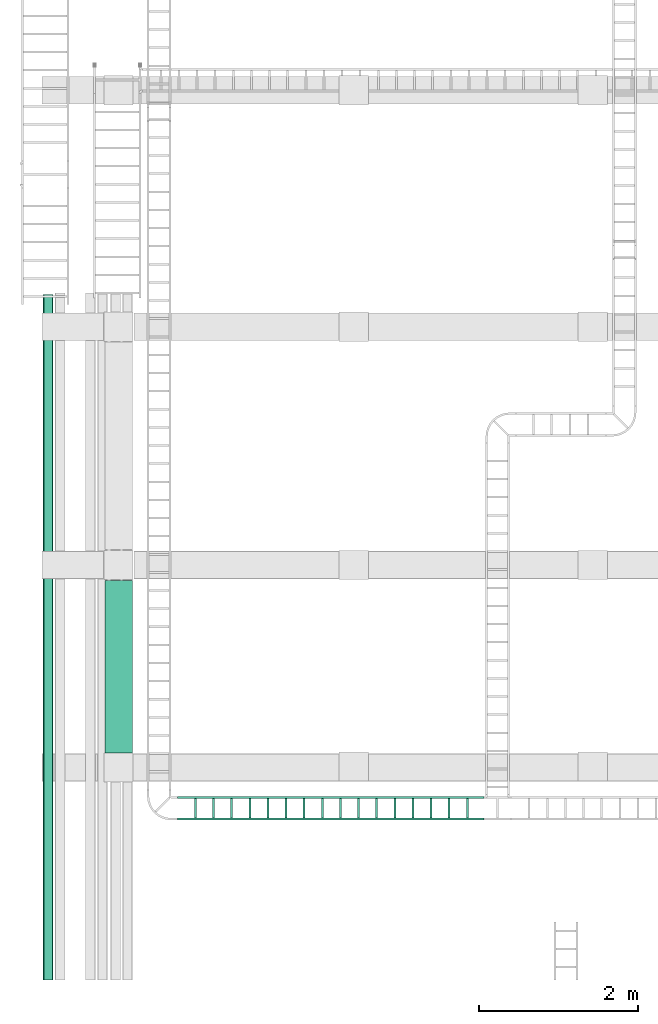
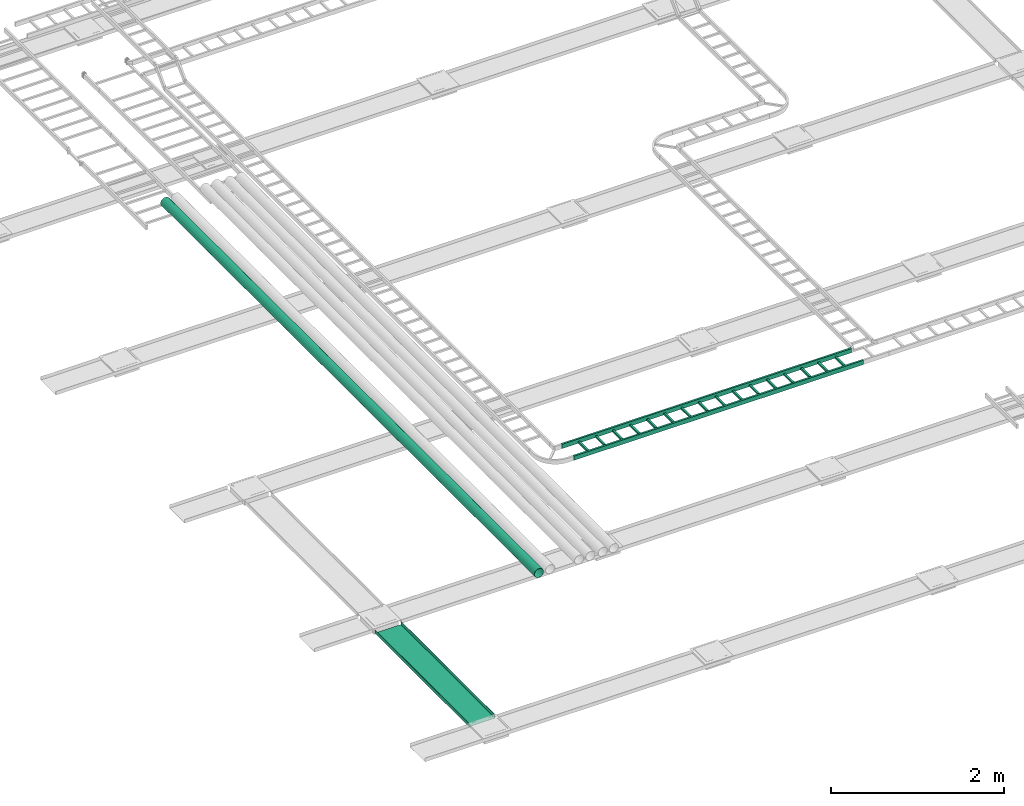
# One storey, part 3 of 16: 3 flow segments.
"""IFC2X3 building model written with IfcOpenShell, lengths in millimetres."""

from ifc_helpers import new_model, entity, si_unit, converted_unit, derived_unit, direction, frame, origin_with_axes, place, context, subcontext, project, spatial, open_shell, faceted_brep, surface_model, source, transform, mapped, type_object, element, save


model = new_model("IFC2X3")

# Units and contexts
model_context = context("Model", 3, precision=0.01, world=frame((0.0, 4.29681676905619e-09, 0.0)), true_north=direction((4.01073788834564e-13, 1.0)))
plan_context = context("Plan", 3, precision=0.01, world=frame((0.0, 4.29681676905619e-09, 0.0)), true_north=direction((4.01073788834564e-13, 1.0)))
body_context = subcontext(model_context, "Body", "Model", "MODEL_VIEW")
ifc_project = project(units=[converted_unit("PLANEANGLEUNIT", "DEGREE", entity("IfcPositiveLengthMeasure", 0.0174532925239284), si_unit("PLANEANGLEUNIT", "RADIAN"), dimensions=[0, 0, 0, 0, 0, 0, 0]), si_unit("AREAUNIT", "SQUARE_METRE"), si_unit("LENGTHUNIT", "METRE", prefix="MILLI"), si_unit("MASSUNIT", "GRAM", prefix="KILO"), si_unit("POWERUNIT", "WATT"), si_unit("PRESSUREUNIT", "PASCAL"), si_unit("FORCEUNIT", "NEWTON", prefix="KILO"), si_unit("ELECTRICVOLTAGEUNIT", "VOLT"), si_unit("ELECTRICCURRENTUNIT", "AMPERE"), si_unit("THERMODYNAMICTEMPERATUREUNIT", "DEGREE_CELSIUS"), si_unit("TIMEUNIT", "SECOND"), si_unit("VOLUMEUNIT", "CUBIC_METRE"), derived_unit("LINEARVELOCITYUNIT", [(si_unit("LENGTHUNIT", "METRE"), 1), (si_unit("TIMEUNIT", "SECOND"), -1)]), derived_unit("VOLUMETRICFLOWRATEUNIT", [(si_unit("VOLUMEUNIT", "CUBIC_METRE"), 1), (si_unit("TIMEUNIT", "SECOND"), -1)]), derived_unit("THERMALTRANSMITTANCEUNIT", [(si_unit("POWERUNIT", "WATT"), 1), (si_unit("THERMODYNAMICTEMPERATUREUNIT", "KELVIN"), -1), (si_unit("AREAUNIT", "SQUARE_METRE"), -1)]), derived_unit("SOUNDPRESSUREUNIT", [(si_unit("PRESSUREUNIT", "PASCAL"), 1)])], contexts=[model_context, plan_context])

# Site, building, storey
site_placement = place(None, frame((0.0, -4.29681676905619e-09, 0.0), z_axis=(0.0, 0.0, 1.0), x_axis=(1.0, 0.0, 0.0)))
site = spatial("IfcSite", under=ifc_project, at=site_placement, Name="ENGM", CompositionType="ELEMENT")
building_placement = place(site_placement, frame((0.0, 4.29681676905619e-09, 0.0), z_axis=(0.0, 0.0, 1.0), x_axis=(1.0, 0.0, 0.0)))
building = spatial("IfcBuilding", under=site, at=building_placement, Name="TS", CompositionType="ELEMENT")
storey_placement = place(building_placement, frame((0.0, 0.0, 210900.0), z_axis=(0.0, 0.0, 1.0), x_axis=(1.0, 0.0, 0.0)))
storey = spatial("IfcBuildingStorey", under=building, at=storey_placement, Name="Nivå F", CompositionType="ELEMENT", Elevation=210900.0)

# Flow segments
cable_carrier_segment_type_1 = type_object("IfcCableCarrierSegmentType", Name="Kabelbane", PredefinedType="CABLETRAYSEGMENT")
shared_shape_1 = source(origin_with_axes(), body_context, "Body", "SurfaceModel", [
    surface_model("IfcShellBasedSurfaceModel", [(0.0, -175.0, 25.0), (0.0, -172.46, -22.46), (0.0, -175.0, -25.0), (0.0, 175.0, -25.0), (0.0, -172.46, 25.0), (0.0, 175.0, 25.0), (0.0, 172.46, -22.46), (0.0, 172.46, 25.0), (2179.54167, -172.46, 25.0), (2179.54167, -175.0, 25.0), (2179.54167, -172.46, -22.46), (2179.54167, 175.0, 25.0), (2179.54167, 172.46, 25.0), (2179.54167, 172.46, -22.46), (2179.54167, -175.0, -25.0), (2179.54167, 175.0, -25.0)], [open_shell([[[0, 1, 2]], [[3, 2, 1]], [[1, 0, 4]], [[5, 3, 6]], [[1, 6, 3]], [[6, 7, 5]], [[8, 9, 10]], [[11, 12, 13]], [[10, 14, 15]], [[14, 10, 9]], [[13, 15, 11]], [[15, 13, 10]], [[0, 2, 9]], [[14, 9, 2]], [[4, 0, 9]], [[9, 8, 4]], [[1, 4, 8]], [[8, 10, 1]], [[6, 1, 13]], [[10, 13, 1]], [[7, 6, 13]], [[13, 12, 7]], [[5, 7, 12]], [[12, 11, 5]], [[3, 5, 15]], [[11, 15, 5]], [[2, 3, 14]], [[15, 14, 3]]])]),
])
flow_segment_1_placement = place(storey_placement, frame((521514.77746, 445814.60271, -35.0), z_axis=(0.0, 0.0, 1.0), x_axis=(0.0, -1.0, 0.0)))
element("IfcFlowSegment", 1, at=flow_segment_1_placement, inside=storey, type_object=cable_carrier_segment_type_1, Name="Kabelbane", context=body_context, shape_type="MappedRepresentation", body=[
    mapped(shared_shape_1, transform((0.0, 0.0, 0.0), scale=1.0)),
])
cable_carrier_segment_type_2 = type_object("IfcCableCarrierSegmentType", Name="Kabelbro", PredefinedType="CABLELADDERSEGMENT")
shared_shape_2 = source(origin_with_axes(), body_context, "Body", "SurfaceModel", [
    surface_model("IfcShellBasedSurfaceModel", [(0.0, -124.6, -30.0), (0.0, -150.0, -30.0), (0.0, -150.0, 30.0), (0.0, -124.6, 30.0), (0.0, 150.0, -30.0), (0.0, 124.6, -30.0), (0.0, 124.6, 30.0), (0.0, 150.0, 30.0), (241.30001, -124.6, -30.0), (241.30001, -124.6, -4.6), (215.89999, -124.6, -4.6), (215.89999, -124.6, -30.0), (215.89999, 124.6, -4.6), (241.30001, 124.6, -4.6), (241.30001, 124.6, -30.0), (215.89999, 124.6, -30.0), (469.89999, -124.6, -30.0), (469.89999, -124.6, -4.6), (444.50001, -124.6, -4.6), (444.50001, -124.6, -30.0), (444.50001, 124.6, -4.6), (469.89999, 124.6, -4.6), (469.89999, 124.6, -30.0), (444.50001, 124.6, -30.0), (698.50002, -124.6, -30.0), (698.50002, -124.6, -4.6), (673.09998, -124.6, -4.6), (673.09998, -124.6, -30.0), (673.09998, 124.6, -4.6), (698.50002, 124.6, -4.6), (698.50002, 124.6, -30.0), (673.09998, 124.6, -30.0), (927.10002, -124.6, -30.0), (927.10002, -124.6, -4.6), (901.69998, -124.6, -4.6), (901.69998, -124.6, -30.0), (901.69998, 124.6, -4.6), (927.10002, 124.6, -4.6), (927.10002, 124.6, -30.0), (901.69998, 124.6, -30.0), (1155.70002, -124.6, -30.0), (1155.70002, -124.6, -4.6), (1130.29998, -124.6, -4.6), (1130.29998, -124.6, -30.0), (1130.29998, 124.6, -4.6), (1155.70002, 124.6, -4.6), (1155.70002, 124.6, -30.0), (1130.29998, 124.6, -30.0), (1384.29995, -124.6, -30.0), (1384.29995, -124.6, -4.6), (1358.90005, -124.6, -4.6), (1358.90005, -124.6, -30.0), (1358.90005, 124.6, -4.6), (1384.29995, 124.6, -4.6), (1384.29995, 124.6, -30.0), (1358.90005, 124.6, -30.0), (1612.89995, -124.6, -30.0), (1612.89995, -124.6, -4.6), (1587.50005, -124.6, -4.6), (1587.50005, -124.6, -30.0), (1587.50005, 124.6, -4.6), (1612.89995, 124.6, -4.6), (1612.89995, 124.6, -30.0), (1587.50005, 124.6, -30.0), (1841.49995, -124.6, -30.0), (1841.49995, -124.6, -4.6), (1816.10005, -124.6, -4.6), (1816.10005, -124.6, -30.0), (1816.10005, 124.6, -4.6), (1841.49995, 124.6, -4.6), (1841.49995, 124.6, -30.0), (1816.10005, 124.6, -30.0), (2070.09995, -124.6, -30.0), (2070.09995, -124.6, -4.6), (2044.70005, -124.6, -4.6), (2044.70005, -124.6, -30.0), (2044.70005, 124.6, -4.6), (2070.09995, 124.6, -4.6), (2070.09995, 124.6, -30.0), (2044.70005, 124.6, -30.0), (2298.69995, -124.6, -30.0), (2298.69995, -124.6, -4.6), (2273.30005, -124.6, -4.6), (2273.30005, -124.6, -30.0), (2273.30005, 124.6, -4.6), (2298.69995, 124.6, -4.6), (2298.69995, 124.6, -30.0), (2273.30005, 124.6, -30.0), (2527.3001, -124.6, -30.0), (2527.3001, -124.6, -4.6), (2501.8999, -124.6, -4.6), (2501.8999, -124.6, -30.0), (2501.8999, 124.6, -4.6), (2527.3001, 124.6, -4.6), (2527.3001, 124.6, -30.0), (2501.8999, 124.6, -30.0), (2755.9001, -124.6, -30.0), (2755.9001, -124.6, -4.6), (2730.4999, -124.6, -4.6), (2730.4999, -124.6, -30.0), (2730.4999, 124.6, -4.6), (2755.9001, 124.6, -4.6), (2755.9001, 124.6, -30.0), (2730.4999, 124.6, -30.0), (2984.5001, -124.6, -30.0), (2984.5001, -124.6, -4.6), (2959.0999, -124.6, -4.6), (2959.0999, -124.6, -30.0), (2959.0999, 124.6, -4.6), (2984.5001, 124.6, -4.6), (2984.5001, 124.6, -30.0), (2959.0999, 124.6, -30.0), (3213.1001, -124.6, -30.0), (3213.1001, -124.6, -4.6), (3187.6999, -124.6, -4.6), (3187.6999, -124.6, -30.0), (3187.6999, 124.6, -4.6), (3213.1001, 124.6, -4.6), (3213.1001, 124.6, -30.0), (3187.6999, 124.6, -30.0), (3441.7001, -124.6, -30.0), (3441.7001, -124.6, -4.6), (3416.2999, -124.6, -4.6), (3416.2999, -124.6, -30.0), (3416.2999, 124.6, -4.6), (3441.7001, 124.6, -4.6), (3441.7001, 124.6, -30.0), (3416.2999, 124.6, -30.0), (3670.3001, -124.6, -30.0), (3670.3001, -124.6, -4.6), (3644.8999, -124.6, -4.6), (3644.8999, -124.6, -30.0), (3644.8999, 124.6, -4.6), (3670.3001, 124.6, -4.6), (3670.3001, 124.6, -30.0), (3644.8999, 124.6, -30.0), (3868.99989, -150.0, 30.0), (3868.99989, -150.0, -30.0), (3868.99989, -124.6, -30.0), (3868.99989, -124.6, 30.0), (3868.99989, 124.6, 30.0), (3868.99989, 124.6, -30.0), (3868.99989, 150.0, -30.0), (3868.99989, 150.0, 30.0)], [open_shell([[[0, 1, 2]], [[2, 3, 0]], [[4, 5, 6]], [[6, 7, 4]], [[8, 9, 10]], [[10, 11, 8]], [[12, 13, 14]], [[14, 15, 12]], [[9, 8, 14]], [[14, 13, 9]], [[10, 9, 12]], [[13, 12, 9]], [[11, 10, 12]], [[12, 15, 11]], [[8, 11, 14]], [[15, 14, 11]], [[16, 17, 18]], [[18, 19, 16]], [[20, 21, 22]], [[22, 23, 20]], [[17, 16, 22]], [[22, 21, 17]], [[18, 17, 20]], [[21, 20, 17]], [[19, 18, 20]], [[20, 23, 19]], [[16, 19, 22]], [[23, 22, 19]], [[24, 25, 26]], [[26, 27, 24]], [[28, 29, 30]], [[30, 31, 28]], [[25, 24, 30]], [[30, 29, 25]], [[26, 25, 28]], [[29, 28, 25]], [[27, 26, 28]], [[28, 31, 27]], [[24, 27, 30]], [[31, 30, 27]], [[32, 33, 34]], [[34, 35, 32]], [[36, 37, 38]], [[38, 39, 36]], [[33, 32, 38]], [[38, 37, 33]], [[34, 33, 36]], [[37, 36, 33]], [[35, 34, 36]], [[36, 39, 35]], [[32, 35, 38]], [[39, 38, 35]], [[40, 41, 42]], [[42, 43, 40]], [[44, 45, 46]], [[46, 47, 44]], [[41, 40, 46]], [[46, 45, 41]], [[42, 41, 44]], [[45, 44, 41]], [[43, 42, 44]], [[44, 47, 43]], [[40, 43, 46]], [[47, 46, 43]], [[48, 49, 50]], [[50, 51, 48]], [[52, 53, 54]], [[54, 55, 52]], [[49, 48, 54]], [[54, 53, 49]], [[50, 49, 52]], [[53, 52, 49]], [[51, 50, 52]], [[52, 55, 51]], [[48, 51, 54]], [[55, 54, 51]], [[56, 57, 58]], [[58, 59, 56]], [[60, 61, 62]], [[62, 63, 60]], [[57, 56, 62]], [[62, 61, 57]], [[58, 57, 60]], [[61, 60, 57]], [[59, 58, 60]], [[60, 63, 59]], [[56, 59, 62]], [[63, 62, 59]], [[64, 65, 66]], [[66, 67, 64]], [[68, 69, 70]], [[70, 71, 68]], [[65, 64, 70]], [[70, 69, 65]], [[66, 65, 68]], [[69, 68, 65]], [[67, 66, 68]], [[68, 71, 67]], [[64, 67, 70]], [[71, 70, 67]], [[72, 73, 74]], [[74, 75, 72]], [[76, 77, 78]], [[78, 79, 76]], [[73, 72, 78]], [[78, 77, 73]], [[74, 73, 76]], [[77, 76, 73]], [[75, 74, 76]], [[76, 79, 75]], [[72, 75, 78]], [[79, 78, 75]], [[80, 81, 82]], [[82, 83, 80]], [[84, 85, 86]], [[86, 87, 84]], [[81, 80, 86]], [[86, 85, 81]], [[82, 81, 84]], [[85, 84, 81]], [[83, 82, 84]], [[84, 87, 83]], [[80, 83, 86]], [[87, 86, 83]], [[88, 89, 90]], [[90, 91, 88]], [[92, 93, 94]], [[94, 95, 92]], [[89, 88, 94]], [[94, 93, 89]], [[90, 89, 92]], [[93, 92, 89]], [[91, 90, 92]], [[92, 95, 91]], [[88, 91, 94]], [[95, 94, 91]], [[96, 97, 98]], [[98, 99, 96]], [[100, 101, 102]], [[102, 103, 100]], [[97, 96, 102]], [[102, 101, 97]], [[98, 97, 100]], [[101, 100, 97]], [[99, 98, 100]], [[100, 103, 99]], [[96, 99, 102]], [[103, 102, 99]], [[104, 105, 106]], [[106, 107, 104]], [[108, 109, 110]], [[110, 111, 108]], [[105, 104, 110]], [[110, 109, 105]], [[106, 105, 108]], [[109, 108, 105]], [[107, 106, 108]], [[108, 111, 107]], [[104, 107, 110]], [[111, 110, 107]], [[112, 113, 114]], [[114, 115, 112]], [[116, 117, 118]], [[118, 119, 116]], [[113, 112, 118]], [[118, 117, 113]], [[114, 113, 116]], [[117, 116, 113]], [[115, 114, 116]], [[116, 119, 115]], [[112, 115, 118]], [[119, 118, 115]], [[120, 121, 122]], [[122, 123, 120]], [[124, 125, 126]], [[126, 127, 124]], [[121, 120, 126]], [[126, 125, 121]], [[122, 121, 124]], [[125, 124, 121]], [[123, 122, 124]], [[124, 127, 123]], [[120, 123, 126]], [[127, 126, 123]], [[128, 129, 130]], [[130, 131, 128]], [[132, 133, 134]], [[134, 135, 132]], [[129, 128, 134]], [[134, 133, 129]], [[130, 129, 132]], [[133, 132, 129]], [[131, 130, 132]], [[132, 135, 131]], [[128, 131, 134]], [[135, 134, 131]], [[136, 137, 138]], [[138, 139, 136]], [[140, 141, 142]], [[142, 143, 140]], [[2, 1, 136]], [[137, 136, 1]], [[3, 2, 139]], [[136, 139, 2]], [[0, 3, 138]], [[139, 138, 3]], [[1, 0, 137]], [[138, 137, 0]], [[4, 7, 142]], [[143, 142, 7]], [[5, 4, 141]], [[142, 141, 4]], [[6, 5, 140]], [[141, 140, 5]], [[7, 6, 143]], [[140, 143, 6]]])]),
])
flow_segment_2_placement = place(storey_placement, frame((522253.55901, 442941.94453, 3925.0), z_axis=(0.0, 0.0, 1.0), x_axis=(1.0, 0.0, 0.0)))
element("IfcFlowSegment", 2, at=flow_segment_2_placement, inside=storey, type_object=cable_carrier_segment_type_2, Name="Kabelbro", context=body_context, shape_type="MappedRepresentation", body=[
    mapped(shared_shape_2, transform((0.0, 0.0, 0.0), scale=1.0)),
])
cable_carrier_segment_type_3 = type_object("IfcCableCarrierSegmentType", Name="Conduit", PredefinedType="CONDUITSEGMENT")
flow_segment_3_placement = place(storey_placement, frame((520622.70222, 435294.0466, 4100.0), z_axis=(0.0, 0.0, 1.0), x_axis=(0.0, 1.0, 0.0)))
element("IfcFlowSegment", 3, at=flow_segment_3_placement, inside=storey, type_object=cable_carrier_segment_type_3, Name="Conduit", context=body_context, shape_type="Brep", body=[
    faceted_brep([(5480.95339999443, 59.5808690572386, -10.5057147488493), (5480.95339999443, 60.5, 0.0), (14129.9, 60.5, 0.0), (14129.9, 59.5808690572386, -10.5057147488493), (5480.95339999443, 56.8514035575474, -20.692218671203), (14129.9, 56.8514035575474, -20.692218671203), (5480.95339999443, 52.3945369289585, -30.25), (14129.9, 52.3945369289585, -30.25), (5480.95339999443, 46.3456888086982, -38.8886503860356), (14129.9, 46.3456888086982, -38.8886503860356), (5480.95339999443, 38.8886503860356, -46.3456888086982), (14129.9, 38.8886503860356, -46.3456888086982), (5480.95339999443, 30.25, -52.3945369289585), (14129.9, 30.25, -52.3945369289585), (5480.95339999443, 20.6922186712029, -56.8514035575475), (14129.9, 20.6922186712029, -56.8514035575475), (5480.95339999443, 10.5057147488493, -59.5808690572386), (14129.9, 10.5057147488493, -59.5808690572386), (5480.95339999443, -1.11136697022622e-14, -60.5), (14129.9, -1.11136697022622e-14, -60.5), (5480.95339999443, -10.5057147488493, -59.5808690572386), (14129.9, -10.5057147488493, -59.5808690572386), (5480.95339999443, -20.692218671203, -56.8514035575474), (14129.9, -20.692218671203, -56.8514035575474), (5480.95339999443, -30.25, -52.3945369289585), (14129.9, -30.25, -52.3945369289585), (5480.95339999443, -38.8886503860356, -46.3456888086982), (14129.9, -38.8886503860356, -46.3456888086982), (5480.95339999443, -46.3456888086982, -38.8886503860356), (14129.9, -46.3456888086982, -38.8886503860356), (5480.95339999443, -52.3945369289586, -30.25), (14129.9, -52.3945369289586, -30.25), (5480.95339999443, -56.8514035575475, -20.692218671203), (14129.9, -56.8514035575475, -20.692218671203), (5480.95339999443, -59.5808690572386, -10.5057147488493), (14129.9, -59.5808690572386, -10.5057147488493), (5480.95339999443, -60.5, 7.40911313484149e-15), (14129.9, -60.5, 7.40911313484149e-15), (5480.95339999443, -59.5808690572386, 10.5057147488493), (14129.9, -59.5808690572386, 10.5057147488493), (5480.95339999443, -56.8514035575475, 20.692218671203), (14129.9, -56.8514035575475, 20.692218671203), (5480.95339999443, -52.3945369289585, 30.25), (14129.9, -52.3945369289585, 30.25), (5480.95339999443, -46.3456888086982, 38.8886503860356), (14129.9, -46.3456888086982, 38.8886503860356), (5480.95339999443, -38.8886503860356, 46.3456888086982), (14129.9, -38.8886503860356, 46.3456888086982), (5480.95339999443, -30.25, 52.3945369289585), (14129.9, -30.25, 52.3945369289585), (5480.95339999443, -20.692218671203, 56.8514035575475), (14129.9, -20.692218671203, 56.8514035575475), (5480.95339999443, -10.5057147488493, 59.5808690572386), (14129.9, -10.5057147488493, 59.5808690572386), (5480.95339999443, 3.70455656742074e-15, 60.5), (14129.9, 3.70455656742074e-15, 60.5), (5480.95339999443, 10.5057147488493, 59.5808690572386), (14129.9, 10.5057147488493, 59.5808690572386), (5480.95339999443, 20.692218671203, 56.8514035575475), (14129.9, 20.692218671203, 56.8514035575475), (5480.95339999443, 30.25, 52.3945369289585), (14129.9, 30.25, 52.3945369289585), (5480.95339999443, 38.8886503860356, 46.3456888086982), (14129.9, 38.8886503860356, 46.3456888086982), (5480.95339999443, 46.3456888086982, 38.8886503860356), (14129.9, 46.3456888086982, 38.8886503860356), (5480.95339999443, 52.3945369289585, 30.25), (14129.9, 52.3945369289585, 30.25), (5480.95339999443, 56.8514035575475, 20.692218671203), (14129.9, 56.8514035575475, 20.692218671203), (5480.95339999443, 59.5808690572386, 10.5057147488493), (14129.9, 59.5808690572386, 10.5057147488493), (5480.95339999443, 62.5, 0.0), (5480.95339999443, 61.550484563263, -10.8530111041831), (14129.9, 61.550484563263, -10.8530111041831), (14129.9, 62.5, 0.0), (5480.95339999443, 61.550484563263, 10.8530111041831), (14129.9, 61.550484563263, 10.8530111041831), (5480.95339999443, 58.7307887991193, 21.3762589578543), (14129.9, 58.7307887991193, 21.3762589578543), (5480.95339999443, 54.1265877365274, 31.25), (14129.9, 54.1265877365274, 31.25), (5480.95339999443, 47.8777776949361, 40.1742256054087), (14129.9, 47.8777776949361, 40.1742256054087), (5480.95339999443, 40.1742256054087, 47.8777776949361), (14129.9, 40.1742256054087, 47.8777776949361), (5480.95339999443, 31.25, 54.1265877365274), (14129.9, 31.25, 54.1265877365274), (5480.95339999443, 21.3762589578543, 58.7307887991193), (14129.9, 21.3762589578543, 58.7307887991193), (5480.95339999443, 10.8530111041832, 61.550484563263), (14129.9, 10.8530111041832, 61.550484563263), (5480.95339999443, 3.82702124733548e-15, 62.5), (14129.9, 3.82702124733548e-15, 62.5), (5480.95339999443, -10.8530111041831, 61.550484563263), (14129.9, -10.8530111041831, 61.550484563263), (5480.95339999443, -21.3762589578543, 58.7307887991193), (14129.9, -21.3762589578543, 58.7307887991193), (5480.95339999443, -31.25, 54.1265877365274), (14129.9, -31.25, 54.1265877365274), (5480.95339999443, -40.1742256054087, 47.8777776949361), (14129.9, -40.1742256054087, 47.8777776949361), (5480.95339999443, -47.8777776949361, 40.1742256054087), (14129.9, -47.8777776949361, 40.1742256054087), (5480.95339999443, -54.1265877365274, 31.25), (14129.9, -54.1265877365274, 31.25), (5480.95339999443, -58.7307887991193, 21.3762589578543), (14129.9, -58.7307887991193, 21.3762589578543), (5480.95339999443, -61.550484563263, 10.8530111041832), (14129.9, -61.550484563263, 10.8530111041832), (5480.95339999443, -62.5, 7.65404249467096e-15), (14129.9, -62.5, 7.65404249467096e-15), (5480.95339999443, -61.550484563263, -10.8530111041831), (14129.9, -61.550484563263, -10.8530111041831), (5480.95339999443, -58.7307887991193, -21.3762589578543), (14129.9, -58.7307887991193, -21.3762589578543), (5480.95339999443, -54.1265877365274, -31.25), (14129.9, -54.1265877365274, -31.25), (5480.95339999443, -47.8777776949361, -40.1742256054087), (14129.9, -47.8777776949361, -40.1742256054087), (5480.95339999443, -40.1742256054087, -47.8777776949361), (14129.9, -40.1742256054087, -47.8777776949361), (5480.95339999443, -31.25, -54.1265877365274), (14129.9, -31.25, -54.1265877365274), (5480.95339999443, -21.3762589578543, -58.7307887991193), (14129.9, -21.3762589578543, -58.7307887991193), (5480.95339999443, -10.8530111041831, -61.550484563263), (14129.9, -10.8530111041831, -61.550484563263), (5480.95339999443, -1.14810637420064e-14, -62.5), (14129.9, -1.14810637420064e-14, -62.5), (5480.95339999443, 10.8530111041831, -61.550484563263), (14129.9, 10.8530111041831, -61.550484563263), (5480.95339999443, 21.3762589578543, -58.7307887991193), (14129.9, 21.3762589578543, -58.7307887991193), (5480.95339999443, 31.25, -54.1265877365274), (14129.9, 31.25, -54.1265877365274), (5480.95339999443, 40.1742256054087, -47.8777776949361), (14129.9, 40.1742256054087, -47.8777776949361), (5480.95339999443, 47.8777776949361, -40.1742256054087), (14129.9, 47.8777776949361, -40.1742256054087), (5480.95339999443, 54.1265877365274, -31.25), (14129.9, 54.1265877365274, -31.25), (5480.95339999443, 58.7307887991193, -21.3762589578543), (14129.9, 58.7307887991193, -21.3762589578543)], [[[0, 1, 2, 3]], [[4, 0, 3, 5]], [[6, 4, 5, 7]], [[8, 6, 7, 9]], [[10, 8, 9, 11]], [[12, 10, 11, 13]], [[14, 12, 13, 15]], [[16, 14, 15, 17]], [[18, 16, 17, 19]], [[20, 18, 19, 21]], [[22, 20, 21, 23]], [[24, 22, 23, 25]], [[26, 24, 25, 27]], [[28, 26, 27, 29]], [[30, 28, 29, 31]], [[32, 30, 31, 33]], [[34, 32, 33, 35]], [[36, 34, 35, 37]], [[38, 36, 37, 39]], [[40, 38, 39, 41]], [[42, 40, 41, 43]], [[44, 42, 43, 45]], [[46, 44, 45, 47]], [[48, 46, 47, 49]], [[50, 48, 49, 51]], [[52, 50, 51, 53]], [[54, 52, 53, 55]], [[56, 54, 55, 57]], [[58, 56, 57, 59]], [[60, 58, 59, 61]], [[62, 60, 61, 63]], [[64, 62, 63, 65]], [[66, 64, 65, 67]], [[68, 66, 67, 69]], [[70, 68, 69, 71]], [[1, 70, 71, 2]], [[72, 73, 74, 75]], [[76, 72, 75, 77]], [[78, 76, 77, 79]], [[80, 78, 79, 81]], [[82, 80, 81, 83]], [[84, 82, 83, 85]], [[86, 84, 85, 87]], [[88, 86, 87, 89]], [[90, 88, 89, 91]], [[92, 90, 91, 93]], [[94, 92, 93, 95]], [[96, 94, 95, 97]], [[98, 96, 97, 99]], [[100, 98, 99, 101]], [[102, 100, 101, 103]], [[104, 102, 103, 105]], [[106, 104, 105, 107]], [[108, 106, 107, 109]], [[110, 108, 109, 111]], [[112, 110, 111, 113]], [[114, 112, 113, 115]], [[116, 114, 115, 117]], [[118, 116, 117, 119]], [[120, 118, 119, 121]], [[122, 120, 121, 123]], [[124, 122, 123, 125]], [[126, 124, 125, 127]], [[128, 126, 127, 129]], [[130, 128, 129, 131]], [[132, 130, 131, 133]], [[134, 132, 133, 135]], [[136, 134, 135, 137]], [[138, 136, 137, 139]], [[140, 138, 139, 141]], [[142, 140, 141, 143]], [[73, 142, 143, 74]], [[75, 74, 143, 141, 139, 137, 135, 133, 131, 129, 127, 125, 123, 121, 119, 117, 115, 113, 111, 109, 107, 105, 103, 101, 99, 97, 95, 93, 91, 89, 87, 85, 83, 81, 79, 77], [2, 71, 69, 67, 65, 63, 61, 59, 57, 55, 53, 51, 49, 47, 45, 43, 41, 39, 37, 35, 33, 31, 29, 27, 25, 23, 21, 19, 17, 15, 13, 11, 9, 7, 5, 3]], [[76, 78, 80, 82, 84, 86, 88, 90, 92, 94, 96, 98, 100, 102, 104, 106, 108, 110, 112, 114, 116, 118, 120, 122, 124, 126, 128, 130, 132, 134, 136, 138, 140, 142, 73, 72], [4, 6, 8, 10, 12, 14, 16, 18, 20, 22, 24, 26, 28, 30, 32, 34, 36, 38, 40, 42, 44, 46, 48, 50, 52, 54, 56, 58, 60, 62, 64, 66, 68, 70, 1, 0]]], orient=[[False], [False], [False], [False], [False], [False], [False], [False], [False], [False], [False], [False], [False], [False], [False], [False], [False], [False], [False], [False], [False], [False], [False], [False], [False], [False], [False], [False], [False], [False], [False], [False], [False], [False], [False], [False], [False], [False], [False], [False], [False], [False], [False], [False], [False], [False], [False], [False], [False], [False], [False], [False], [False], [False], [False], [False], [False], [False], [False], [False], [False], [False], [False], [False], [False], [False], [False], [False], [False], [False], [False], [False], [False, False], [False, False]]),
])

save(model, "model.ifc")
